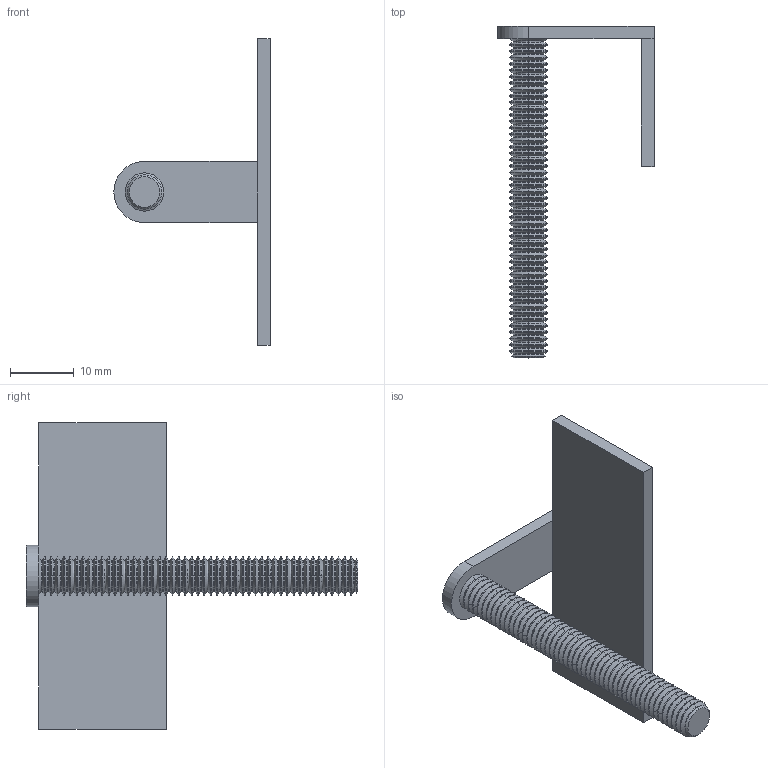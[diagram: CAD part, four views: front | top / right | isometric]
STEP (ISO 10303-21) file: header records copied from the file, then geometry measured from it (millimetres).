
FILE_DESCRIPTION(/* description */ (''),/* implementation_level */ '2;1');
FILE_NAME(/* name */ 'Hook2',/* time_stamp */ '2026-08-19T18:35:02+02:00',/* author */ (''),/* organization */ (''),/* preprocessor_version */ 'ST-DEVELOPER v19.2',/* originating_system */ 'Rhino 8.34',/* authorisation */ '');
FILE_SCHEMA (('CONFIG_CONTROL_DESIGN'));
Length unit declared in the file: millimetre
Products named in the file (1): Document
Bounding box: 24.48 x 52 x 48 mm (x, y, z)
Volume: 3503.7 mm3; surface area: 4175.8 mm2
Topology: 1 solids, 1 shells, 413 faces, 874 edges, 464 vertices
Faces by surface type: bspline 302, cylinder 99, plane 12
Entity records: 15210 total; most frequent: CARTESIAN_POINT 7393, ORIENTED_EDGE 1748, DIRECTION 1211, EDGE_CURVE 874, AXIS2_PLACEMENT_3D 661, TRIMMED_CURVE 548, CIRCLE 548, VERTEX_POINT 464
